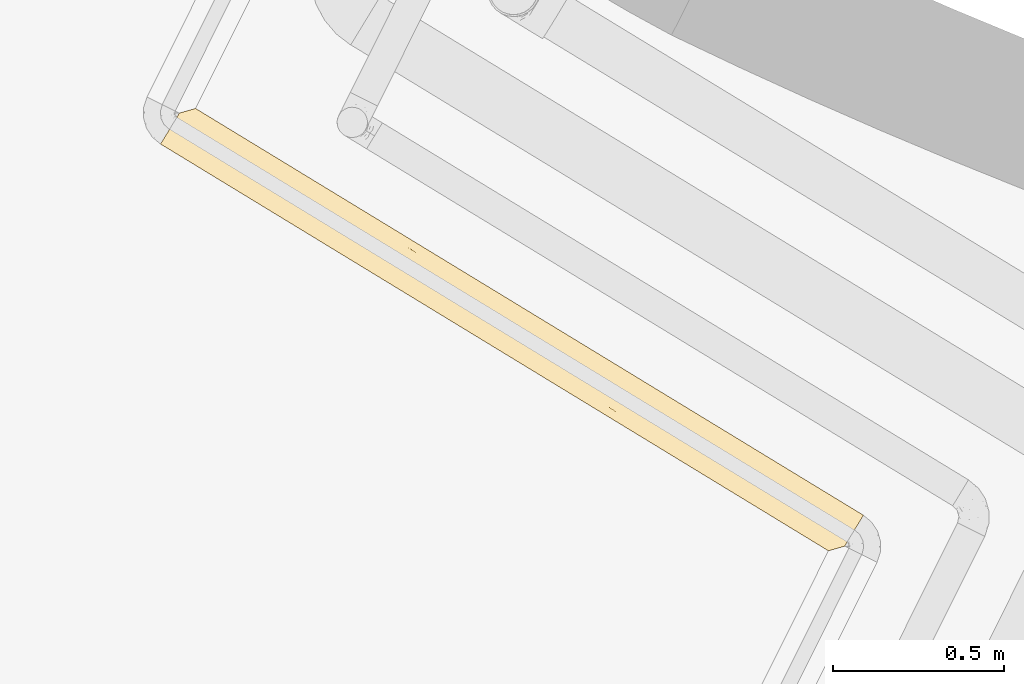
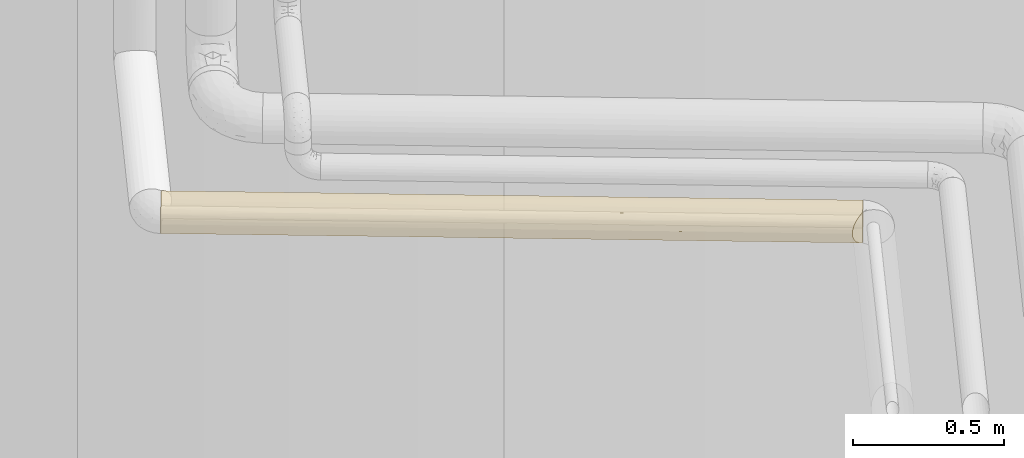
# One storey, part 15 of 47: 1 covering.
"""IFC2X3 building model written with IfcOpenShell, lengths in metres."""

from ifc_helpers import new_model, entity, si_unit, converted_unit, derived_unit, direction, frame, origin, place, context, subcontext, project, spatial, faceted_brep, element, save


model = new_model("IFC2X3")

# Units and contexts
model_context = context("Model", 3, precision=1e-05, world=origin(), true_north=direction((0.894925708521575, 0.446215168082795)))
context_of_model = context(None, 3, precision=1e-05, world=origin(), true_north=direction((0.894925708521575, 0.446215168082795)))
body_context = subcontext(model_context, "Body", "Model", "MODEL_VIEW")
ifc_project = project(units=[si_unit("LENGTHUNIT", "METRE"), si_unit("AREAUNIT", "SQUARE_METRE"), si_unit("VOLUMEUNIT", "CUBIC_METRE"), converted_unit("PLANEANGLEUNIT", "DEGREE", entity("IfcRatioMeasure", 0.0174532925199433), si_unit("PLANEANGLEUNIT", "RADIAN"), dimensions=[0, 0, 0, 0, 0, 0, 0]), si_unit("MASSUNIT", "GRAM", prefix="KILO"), si_unit("TIMEUNIT", "SECOND"), si_unit("FREQUENCYUNIT", "HERTZ"), si_unit("THERMODYNAMICTEMPERATUREUNIT", "DEGREE_CELSIUS"), derived_unit("THERMALTRANSMITTANCEUNIT", [(si_unit("MASSUNIT", "GRAM", prefix="KILO"), 1), (si_unit("THERMODYNAMICTEMPERATUREUNIT", "KELVIN"), -1), (si_unit("TIMEUNIT", "SECOND"), -3)]), derived_unit("VOLUMETRICFLOWRATEUNIT", [(si_unit("LENGTHUNIT", "METRE"), 3), (si_unit("TIMEUNIT", "SECOND"), -1)]), si_unit("ELECTRICCURRENTUNIT", "AMPERE"), si_unit("ELECTRICVOLTAGEUNIT", "VOLT"), si_unit("POWERUNIT", "WATT"), si_unit("FORCEUNIT", "NEWTON", prefix="KILO"), si_unit("ILLUMINANCEUNIT", "LUX"), si_unit("LUMINOUSFLUXUNIT", "LUMEN"), si_unit("LUMINOUSINTENSITYUNIT", "CANDELA"), si_unit("PRESSUREUNIT", "PASCAL")], contexts=[model_context, context_of_model])

# Site, building, storey
site_placement = place(None, frame((218.228324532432, 584.720189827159, 0.0), z_axis=(0.0, 0.0, 1.0), x_axis=(0.446215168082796, 0.894925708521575, 0.0)))
site = spatial("IfcSite", under=ifc_project, at=site_placement, Name="Default", CompositionType="ELEMENT")
building_placement = place(site_placement, origin())
building = spatial("IfcBuilding", under=site, at=building_placement, CompositionType="ELEMENT")
storey_placement = place(building_placement, frame((0.0, 0.0, 4.69)))
storey = spatial("IfcBuildingStorey", under=building, at=storey_placement, Name="1 - Piano Primo", CompositionType="ELEMENT", Elevation=4.69)

# Covering
covering_placement = place(storey_placement, frame((65.7974321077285, -4.12679024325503, 2.88732272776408)))
element("IfcCovering", 1, at=covering_placement, inside=storey, Name="Isolamento tubazione:Default", ObjectType="Isolamento tubazione:Default", PredefinedType="INSULATION", context=body_context, shape_type="Brep", body=[
    faceted_brep([(0.20430387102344, 2.32622490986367, 0.0371363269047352), (0.197228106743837, 2.32682448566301, 0.054279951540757), (0.19481469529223, 2.32702898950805, 0.0726773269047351), (0.197228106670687, 2.32682448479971, 0.091074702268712), (0.204303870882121, 2.32622490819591, 0.108218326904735), (0.215559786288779, 2.32527111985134, 0.122939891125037), (0.230228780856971, 2.32402811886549, 0.13423614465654), (0.247311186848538, 2.32258061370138, 0.141337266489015), (0.265642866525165, 2.32102724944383, 0.143759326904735), (0.283578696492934, 2.31950742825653, 0.141442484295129), (0.300344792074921, 2.31808672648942, 0.134643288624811), (0.300344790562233, 2.31808672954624, 0.0107113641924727), (0.28357869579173, 2.31950743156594, 0.00391216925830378), (0.265642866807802, 2.32102725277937, 0.00159532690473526), (0.24731118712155, 2.32258061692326, 0.00401738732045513), (0.230228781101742, 2.32402812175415, 0.01111850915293), (0.215559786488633, 2.32527112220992, 0.0224147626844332), (0.0349087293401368, 0.0105375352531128, 0.0107113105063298), (0.0516748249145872, 0.00911683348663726, 0.00391211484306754), (0.0696106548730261, 0.00759701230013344, 0.00159527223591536), (0.0879423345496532, 0.0060436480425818, 0.00401733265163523), (0.10502474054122, 0.00459614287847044, 0.0111184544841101), (0.119693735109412, 0.00335314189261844, 0.0224147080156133), (0.13094965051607, 0.00239935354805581, 0.0371362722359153), (0.138025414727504, 0.00179977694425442, 0.0542798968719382), (0.140438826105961, 0.0015952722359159, 0.0726772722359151), (0.138025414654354, 0.00179977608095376, 0.0910746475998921), (0.130949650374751, 0.00239935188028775, 0.108218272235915), (0.119693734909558, 0.003353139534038, 0.122939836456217), (0.105024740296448, 0.00459613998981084, 0.13423608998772), (0.0879423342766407, 0.00604364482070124, 0.141337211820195), (0.0696106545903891, 0.00759700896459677, 0.143759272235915), (0.0516748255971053, 0.00911683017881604, 0.141442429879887), (0.034908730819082, 0.0105375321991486, 0.134643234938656), (0.332199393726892, 2.28341871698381, 0.0577376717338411), (0.333658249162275, 2.28183101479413, 0.0726773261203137), (0.283946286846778, 1.69516642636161, 0.0726773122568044), (0.278597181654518, 1.85027238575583, 0.0249277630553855), (0.320916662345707, 2.29569794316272, 0.0304981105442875), (0.300800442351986, 2.01062317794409, 0.0365909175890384), (0.162908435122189, 0.330848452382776, 0.0454753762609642), (0.16860706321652, 0.346852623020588, 0.0603118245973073), (0.159612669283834, 0.401839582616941, 0.0294053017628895), (0.311596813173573, 2.30584092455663, 0.0194150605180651), (0.297162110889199, 1.89394604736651, 0.050297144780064), (0.25276301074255, 1.36086325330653, 0.0527671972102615), (0.272244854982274, 1.67521416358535, 0.0363649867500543), (0.26735767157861, 1.85908719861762, 0.014409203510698), (0.263222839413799, 1.97706087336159, 0.00677256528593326), (0.198089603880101, 0.697111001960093, 0.0592471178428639), (0.188744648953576, 0.571665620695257, 0.0726772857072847), (0.153130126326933, 0.480738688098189, 0.0162841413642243), (0.12556877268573, 0.345806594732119, 0.00700607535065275), (0.244260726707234, 1.51480043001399, 0.0191471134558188), (0.111153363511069, 0.351520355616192, 0.00267734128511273), (0.142055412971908, 0.70296540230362, 0.00288387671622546), (0.203554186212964, 1.15707113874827, 0.0116287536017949), (0.218984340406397, 1.15899325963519, 0.0238133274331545), (0.0944668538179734, 0.300931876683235, 0.00159527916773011), (0.117914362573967, 0.577642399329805, 0.00159528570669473), (0.22836360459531, 1.56567742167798, 0.00677255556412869), (0.186616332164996, 1.15718222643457, 0.00432912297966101), (0.215930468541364, 1.73435751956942, 0.00159531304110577), (0.241514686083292, 1.87991014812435, 0.00283231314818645), (0.209091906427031, 1.50988704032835, 0.0026394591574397), (0.217339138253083, 1.75098161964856, 0.00159531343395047), (0.240786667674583, 2.02769238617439, 0.00159531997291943), (0.327887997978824, 2.28811089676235, 0.0434654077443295), (0.230490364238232, 1.17067175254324, 0.0380944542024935), (0.237048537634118, 1.14171314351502, 0.072677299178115), (0.223444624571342, 1.01288233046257, 0.0533513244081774), (0.186217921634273, 0.821212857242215, 0.0197909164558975), (0.1601964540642, 0.754457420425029, 0.00700608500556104), (0.166218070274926, 1.14768778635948, 0.00159529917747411), (0.195611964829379, 0.812880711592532, 0.0309673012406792), (0.196713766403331, 0.729794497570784, 0.0454753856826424), (0.169035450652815, 1.18093646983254, 0.00159529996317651), (0.119323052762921, 0.594266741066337, 0.00159528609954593), (0.00736552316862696, 0.0405133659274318, 0.0434653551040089), (0.0344530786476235, 0.318001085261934, 0.0365908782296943), (0.0143368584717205, 0.0329263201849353, 0.030498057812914), (0.0566563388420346, 0.478351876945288, 0.0249277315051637), (0.172345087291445, 1.99777582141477, 0.0454754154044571), (0.166646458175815, 1.98177163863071, 0.060311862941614), (0.0720306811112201, 0.351563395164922, 0.00677252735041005), (0.0380914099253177, 0.434678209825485, 0.0502971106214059), (0.0630086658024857, 0.653410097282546, 0.0363649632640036), (0.0937388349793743, 0.448714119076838, 0.00283227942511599), (0.126161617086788, 0.81873725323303, 0.00263944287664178), (0.209684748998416, 1.98281767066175, 0.00700611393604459), (0.224100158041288, 1.97710390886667, 0.00267737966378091), (0.193198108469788, 1.62565885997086, 0.0028838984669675), (0.0678958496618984, 0.469537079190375, 0.0144091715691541), (0.023656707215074, 0.022783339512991, 0.0194150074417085), (0.0909927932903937, 0.813823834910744, 0.0191470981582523), (0.137163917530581, 1.63151326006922, 0.0592471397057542), (0.14650976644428, 1.75696919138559, 0.0726773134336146), (0.0824905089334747, 0.967760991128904, 0.0527671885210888), (0.182123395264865, 1.84788557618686, 0.0162841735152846), (0.175640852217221, 1.92678468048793, 0.029405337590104), (0.00305412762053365, 0.0452055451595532, 0.0577376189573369), (0.106889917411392, 0.762946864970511, 0.00677253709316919), (0.131699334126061, 1.17155311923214, 0.0116287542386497), (0.148637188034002, 1.17144204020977, 0.00432912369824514), (0.0015952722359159, 0.0467932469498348, 0.0726772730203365), (0.0513075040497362, 0.63346101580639, 0.0726772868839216), (0.116269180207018, 1.1696310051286, 0.0238133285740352), (0.104763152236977, 1.15795245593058, 0.0380944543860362), (0.0982048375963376, 1.18690939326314, 0.0726772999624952), (0.111808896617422, 1.31574192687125, 0.0533513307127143), (0.149035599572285, 1.5074114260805, 0.0197909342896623), (0.175057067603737, 1.574166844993, 0.00700610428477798), (0.139641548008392, 1.51574346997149, 0.0309673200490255), (0.138539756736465, 1.5988297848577, 0.0454754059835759), (0.0944669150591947, 0.30093259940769, 0.143759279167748), (0.072030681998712, 0.351563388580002, 0.13858203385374), (0.0937388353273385, 0.44871411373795, 0.142522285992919), (0.106889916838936, 0.762946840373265, 0.138582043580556), (0.224100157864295, 1.97710390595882, 0.14267725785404), (0.209684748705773, 1.9828176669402, 0.138348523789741), (0.00305412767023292, 0.045205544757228, 0.0876169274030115), (0.0566563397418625, 0.478351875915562, 0.120426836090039), (0.0630086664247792, 0.653410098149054, 0.108989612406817), (0.0344530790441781, 0.318001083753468, 0.108763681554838), (0.0824905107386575, 0.967761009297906, 0.0925874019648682), (0.038091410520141, 0.434678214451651, 0.0950574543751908), (0.00736552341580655, 0.0405133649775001, 0.101889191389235), (0.149035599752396, 1.50741140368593, 0.125563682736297), (0.175640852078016, 1.9267846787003, 0.115949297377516), (0.139641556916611, 1.51574355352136, 0.114387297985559), (0.0143368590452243, 0.0329263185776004, 0.114856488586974), (0.0236567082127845, 0.0227833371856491, 0.125939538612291), (0.0678958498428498, 0.469537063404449, 0.130945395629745), (0.182123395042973, 1.84788557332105, 0.129070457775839), (0.172345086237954, 1.99777580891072, 0.0998792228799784), (0.217338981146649, 1.7509797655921, 0.143759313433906), (0.193198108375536, 1.62565885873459, 0.142470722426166), (0.166646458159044, 1.98177163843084, 0.0850427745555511), (0.137163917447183, 1.6315132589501, 0.0861074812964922), (0.111808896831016, 1.31574193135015, 0.0920032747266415), (0.104763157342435, 1.15795251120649, 0.107260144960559), (0.138539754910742, 1.59882976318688, 0.0998792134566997), (0.116269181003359, 1.16963100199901, 0.121541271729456), (0.0909927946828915, 0.813823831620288, 0.1262074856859), (0.131699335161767, 1.17155312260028, 0.133725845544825), (0.175057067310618, 1.57416684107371, 0.138348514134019), (0.148637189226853, 1.17144203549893, 0.141025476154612), (0.12616161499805, 0.818737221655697, 0.14271513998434), (0.169035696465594, 1.18093937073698, 0.143759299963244), (0.215930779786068, 1.73436119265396, 0.143759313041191), (0.11791410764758, 0.57763939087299, 0.143759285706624), (0.119323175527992, 0.594268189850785, 0.143759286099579), (0.166218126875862, 1.14768845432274, 0.143759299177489), (0.240786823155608, 2.02769422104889, 0.143759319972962), (0.153130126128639, 0.480738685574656, 0.129070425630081), (0.160196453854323, 0.75445741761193, 0.138348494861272), (0.125568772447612, 0.345806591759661, 0.138348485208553), (0.186217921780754, 0.821212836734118, 0.125563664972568), (0.252763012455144, 1.36086327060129, 0.0925874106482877), (0.24426072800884, 1.51480042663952, 0.126207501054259), (0.203554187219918, 1.15707114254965, 0.133725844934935), (0.218984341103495, 1.15899325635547, 0.121541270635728), (0.320916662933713, 2.29569794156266, 0.114856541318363), (0.300800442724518, 2.01062317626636, 0.1087637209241), (0.327887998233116, 2.28811089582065, 0.101889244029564), (0.162908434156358, 0.330848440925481, 0.0998791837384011), (0.111153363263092, 0.351520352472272, 0.142677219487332), (0.142055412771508, 0.702965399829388, 0.14247070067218), (0.263222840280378, 1.97706086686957, 0.138582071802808), (0.267357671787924, 1.85908718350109, 0.13094542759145), (0.297162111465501, 1.89394605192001, 0.0950574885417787), (0.168607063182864, 0.34685262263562, 0.0850427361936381), (0.278597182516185, 1.85027238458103, 0.120426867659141), (0.27224485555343, 1.67521416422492, 0.10898963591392), (0.311596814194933, 2.30584092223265, 0.125939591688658), (0.18661633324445, 1.15718222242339, 0.141025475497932), (0.159612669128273, 0.401839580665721, 0.115949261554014), (0.195611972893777, 0.812880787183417, 0.114387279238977), (0.332199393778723, 2.28341871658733, 0.0876169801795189), (0.241514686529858, 1.87991014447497, 0.142522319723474), (0.228363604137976, 1.56567739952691, 0.138582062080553), (0.223444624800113, 1.01288233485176, 0.0920032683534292), (0.230490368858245, 1.17067180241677, 0.107260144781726), (0.196713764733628, 0.729794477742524, 0.099879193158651), (0.198089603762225, 0.697111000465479, 0.0861074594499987), (0.2090919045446, 1.50988701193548, 0.142715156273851)], [[[0, 1, 2, 3, 4, 5, 6, 7, 8, 9, 10, 11, 12, 13, 14, 15, 16]], [[17, 18, 19, 20, 21, 22, 23, 24, 25, 26, 27, 28, 29, 30, 31, 32, 33]], [[34, 35, 36]], [[37, 38, 39]], [[24, 40, 41]], [[23, 22, 42]], [[37, 43, 38]], [[44, 45, 46]], [[47, 48, 11]], [[49, 50, 41]], [[22, 51, 42]], [[52, 51, 21]], [[21, 20, 52]], [[47, 37, 53]], [[52, 54, 55]], [[56, 53, 57]], [[54, 19, 58, 59]], [[36, 45, 44]], [[60, 56, 61]], [[62, 63, 64]], [[40, 24, 23]], [[63, 62, 65, 66]], [[22, 21, 51]], [[12, 11, 48]], [[67, 39, 38]], [[47, 11, 43]], [[44, 67, 34]], [[47, 53, 60]], [[68, 46, 45]], [[39, 44, 46]], [[34, 36, 44]], [[12, 66, 13]], [[45, 36, 69]], [[70, 69, 49]], [[45, 70, 68]], [[71, 72, 56]], [[55, 73, 61]], [[57, 68, 74]], [[71, 74, 42]], [[24, 41, 25]], [[40, 42, 75]], [[44, 39, 67]], [[37, 39, 46]], [[53, 46, 57]], [[43, 37, 47]], [[46, 53, 37]], [[71, 57, 74]], [[61, 56, 72]], [[60, 53, 56]], [[72, 52, 55]], [[64, 73, 76, 62]], [[47, 60, 48]], [[63, 12, 48]], [[60, 64, 63]], [[12, 63, 66]], [[60, 63, 48]], [[60, 61, 64]], [[73, 64, 61]], [[54, 52, 20]], [[51, 52, 72]], [[19, 54, 20]], [[54, 59, 55]], [[55, 59, 77, 73]], [[61, 72, 55]], [[42, 40, 23]], [[49, 41, 40]], [[49, 40, 75]], [[25, 41, 50]], [[70, 49, 75]], [[69, 50, 49]], [[75, 74, 68]], [[69, 70, 45]], [[75, 68, 70]], [[46, 68, 57]], [[75, 42, 74]], [[71, 42, 51]], [[72, 71, 51]], [[56, 57, 71]], [[78, 79, 80]], [[81, 80, 79]], [[1, 82, 83]], [[17, 84, 18]], [[79, 85, 86]], [[77, 87, 88]], [[89, 90, 91]], [[90, 13, 66, 65]], [[87, 77, 59, 58]], [[92, 17, 93]], [[82, 1, 0]], [[92, 81, 94]], [[95, 96, 83]], [[92, 84, 17]], [[85, 97, 86]], [[81, 93, 80]], [[89, 98, 15]], [[99, 16, 98]], [[85, 78, 100]], [[14, 89, 15]], [[101, 102, 103]], [[99, 0, 16]], [[100, 104, 105]], [[105, 97, 85]], [[102, 94, 106]], [[101, 92, 94]], [[107, 86, 97]], [[16, 15, 98]], [[100, 105, 85]], [[18, 58, 19]], [[97, 105, 108]], [[109, 108, 95]], [[97, 109, 107]], [[110, 111, 102]], [[91, 76, 103]], [[106, 107, 112]], [[110, 112, 99]], [[1, 83, 2]], [[82, 99, 113]], [[85, 79, 78]], [[81, 79, 86]], [[94, 86, 106]], [[93, 81, 92]], [[86, 94, 81]], [[110, 106, 112]], [[103, 102, 111]], [[101, 94, 102]], [[111, 89, 91]], [[88, 76, 73, 77]], [[92, 101, 84]], [[87, 18, 84]], [[101, 88, 87]], [[18, 87, 58]], [[101, 87, 84]], [[101, 103, 88]], [[76, 88, 103]], [[90, 89, 14]], [[98, 89, 111]], [[13, 90, 14]], [[90, 65, 91]], [[91, 65, 62, 76]], [[103, 111, 91]], [[99, 82, 0]], [[95, 83, 82]], [[95, 82, 113]], [[2, 83, 96]], [[109, 95, 113]], [[108, 96, 95]], [[113, 112, 107]], [[108, 109, 97]], [[113, 107, 109]], [[86, 107, 106]], [[113, 99, 112]], [[110, 99, 98]], [[111, 110, 98]], [[102, 106, 110]], [[32, 31, 114]], [[115, 116, 117]], [[115, 33, 32]], [[118, 7, 119]], [[104, 120, 105]], [[121, 122, 123]], [[124, 105, 125]], [[126, 123, 125]], [[127, 128, 129]], [[130, 123, 126]], [[121, 131, 132]], [[5, 128, 133]], [[33, 115, 132]], [[4, 3, 134]], [[135, 118, 136]], [[134, 137, 138]], [[108, 105, 124]], [[7, 6, 119]], [[139, 140, 141]], [[2, 96, 137]], [[6, 5, 133]], [[142, 143, 144]], [[133, 145, 119]], [[126, 125, 120]], [[146, 145, 144]], [[33, 132, 131]], [[127, 145, 133]], [[121, 143, 122]], [[125, 122, 124]], [[147, 148, 146]], [[105, 120, 125]], [[140, 122, 142]], [[138, 139, 141]], [[5, 4, 128]], [[7, 118, 8]], [[128, 127, 133]], [[134, 128, 4]], [[134, 138, 141]], [[129, 141, 140]], [[130, 131, 121]], [[125, 123, 122]], [[121, 123, 130]], [[143, 121, 132]], [[117, 143, 132]], [[122, 143, 142]], [[143, 117, 144]], [[146, 144, 117]], [[147, 117, 116]], [[136, 148, 149, 135]], [[114, 116, 32]], [[117, 132, 115]], [[116, 114, 150, 151]], [[116, 151, 147]], [[32, 116, 115]], [[147, 151, 152, 148]], [[146, 117, 147]], [[133, 119, 6]], [[136, 118, 119]], [[136, 119, 145]], [[118, 135, 153, 8]], [[145, 146, 136]], [[148, 136, 146]], [[137, 134, 3]], [[128, 134, 141]], [[2, 137, 3]], [[137, 96, 138]], [[96, 108, 138]], [[139, 108, 124]], [[108, 139, 138]], [[140, 139, 124]], [[122, 140, 124]], [[140, 142, 129]], [[129, 142, 127]], [[128, 141, 129]], [[142, 144, 127]], [[145, 127, 144]], [[154, 155, 156]], [[157, 155, 154]], [[69, 36, 158]], [[159, 160, 161]], [[162, 163, 164]], [[156, 30, 29]], [[27, 26, 165]], [[150, 166, 167]], [[168, 169, 10]], [[158, 36, 170]], [[171, 25, 50]], [[172, 173, 163]], [[172, 174, 169]], [[175, 155, 160]], [[157, 176, 177]], [[164, 170, 178]], [[29, 28, 154]], [[164, 163, 170]], [[9, 8, 153]], [[168, 10, 9]], [[168, 179, 180]], [[35, 178, 36]], [[166, 30, 156]], [[28, 176, 154]], [[181, 182, 183]], [[169, 174, 10]], [[165, 171, 184]], [[172, 159, 173]], [[170, 173, 158]], [[185, 152, 175]], [[36, 178, 170]], [[182, 173, 161]], [[184, 181, 183]], [[28, 27, 176]], [[30, 166, 31]], [[176, 157, 154]], [[165, 176, 27]], [[165, 184, 183]], [[177, 183, 182]], [[162, 174, 172]], [[170, 163, 173]], [[172, 163, 162]], [[159, 172, 169]], [[180, 159, 169]], [[173, 159, 161]], [[159, 180, 160]], [[175, 160, 180]], [[185, 180, 179]], [[167, 152, 151, 150]], [[153, 179, 9]], [[180, 169, 168]], [[179, 153, 135, 149]], [[179, 149, 185]], [[9, 179, 168]], [[185, 149, 148, 152]], [[175, 180, 185]], [[154, 156, 29]], [[167, 166, 156]], [[167, 156, 155]], [[166, 150, 114, 31]], [[155, 175, 167]], [[152, 167, 175]], [[171, 165, 26]], [[176, 165, 183]], [[25, 171, 26]], [[171, 50, 184]], [[50, 69, 184]], [[181, 69, 158]], [[69, 181, 184]], [[182, 181, 158]], [[173, 182, 158]], [[182, 161, 177]], [[177, 161, 157]], [[176, 183, 177]], [[161, 160, 157]], [[155, 157, 160]], [[10, 174, 162, 164, 178, 35, 34, 67, 38, 43, 11]], [[100, 78, 80, 93, 17, 33, 131, 130, 126, 120, 104]]]),
])

save(model, "model.ifc")
